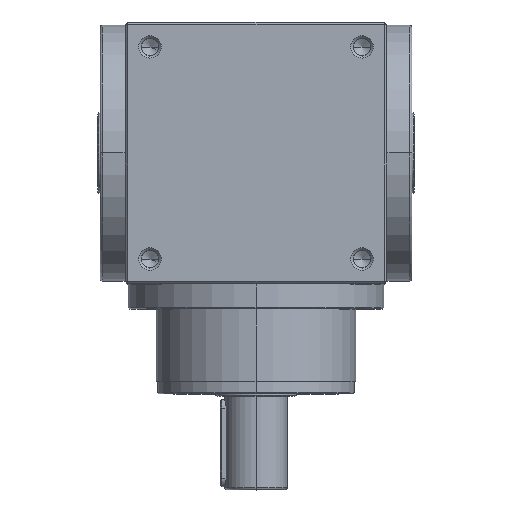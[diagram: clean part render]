
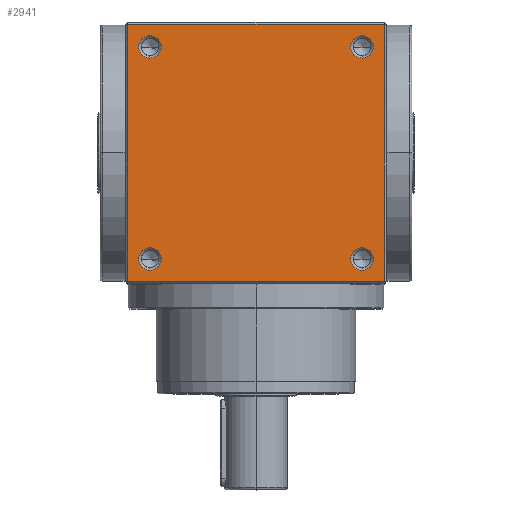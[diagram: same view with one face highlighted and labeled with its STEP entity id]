
A CAD part, top view. The second image highlights one B-rep face of the part: STEP entity #2941.
In plain terms, the highlighted planar face has unit normal (0, 0, 1).
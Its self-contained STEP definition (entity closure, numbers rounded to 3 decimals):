
#244 = EDGE_CURVE ( 'NONE', #2191, #11335, #12381, .T. ) ;
#249 = CARTESIAN_POINT ( 'NONE',  ( 103., -103., 105. ) ) ;
#279 = ORIENTED_EDGE ( 'NONE', *, *, #3799, .F. ) ;
#300 = EDGE_LOOP ( 'NONE', ( #6648, #6081 ) ) ;
#321 = VERTEX_POINT ( 'NONE', #3622 ) ;
#336 = ORIENTED_EDGE ( 'NONE', *, *, #1394, .F. ) ;
#395 = VERTEX_POINT ( 'NONE', #10853 ) ;
#608 = DIRECTION ( 'NONE',  ( 0., 0., 1. ) ) ;
#756 = CIRCLE ( 'NONE', #11663, 9. ) ;
#773 = CARTESIAN_POINT ( 'NONE',  ( -103., 103., 105. ) ) ;
#934 = LINE ( 'NONE', #5462, #3577 ) ;
#968 = CARTESIAN_POINT ( 'NONE',  ( -85., -76., 105. ) ) ;
#1059 = LINE ( 'NONE', #11215, #6003 ) ;
#1388 = CIRCLE ( 'NONE', #3083, 9. ) ;
#1394 = EDGE_CURVE ( 'NONE', #10321, #9308, #6540, .T. ) ;
#1563 = CARTESIAN_POINT ( 'NONE',  ( 0., 0., 105. ) ) ;
#1846 = VERTEX_POINT ( 'NONE', #6863 ) ;
#1880 = AXIS2_PLACEMENT_3D ( 'NONE', #1563, #8465, #2586 ) ;
#1972 = CARTESIAN_POINT ( 'NONE',  ( 85., -85., 105. ) ) ;
#2123 = EDGE_CURVE ( 'NONE', #8419, #3118, #756, .T. ) ;
#2191 = VERTEX_POINT ( 'NONE', #9527 ) ;
#2344 = FACE_BOUND ( 'NONE', #7661, .T. ) ;
#2389 = EDGE_LOOP ( 'NONE', ( #4267, #2918, #336, #4982 ) ) ;
#2458 = CIRCLE ( 'NONE', #5632, 9. ) ;
#2526 = CARTESIAN_POINT ( 'NONE',  ( 85., 85., 105. ) ) ;
#2586 = DIRECTION ( 'NONE',  ( -1., 0., 0. ) ) ;
#2866 = ORIENTED_EDGE ( 'NONE', *, *, #6354, .F. ) ;
#2918 = ORIENTED_EDGE ( 'NONE', *, *, #5237, .T. ) ;
#2939 = CARTESIAN_POINT ( 'NONE',  ( 85., -94., 105. ) ) ;
#2941 = ADVANCED_FACE ( 'NONE', ( #2344, #7596, #10187, #12489, #9889 ), #6413, .F. ) ;
#3001 = DIRECTION ( 'NONE',  ( 0., -1., 0. ) ) ;
#3083 = AXIS2_PLACEMENT_3D ( 'NONE', #10438, #4568, #11430 ) ;
#3118 = VERTEX_POINT ( 'NONE', #6061 ) ;
#3292 = LINE ( 'NONE', #11851, #5922 ) ;
#3361 = CIRCLE ( 'NONE', #12350, 9. ) ;
#3424 = DIRECTION ( 'NONE',  ( 0., -1., 0. ) ) ;
#3516 = DIRECTION ( 'NONE',  ( 0., -1., 0. ) ) ;
#3577 = VECTOR ( 'NONE', #3424, 1000. ) ;
#3622 = CARTESIAN_POINT ( 'NONE',  ( 85., 76., 105. ) ) ;
#3799 = EDGE_CURVE ( 'NONE', #7589, #1846, #1388, .T. ) ;
#4075 = CARTESIAN_POINT ( 'NONE',  ( -103., 0., 105. ) ) ;
#4267 = ORIENTED_EDGE ( 'NONE', *, *, #12525, .F. ) ;
#4568 = DIRECTION ( 'NONE',  ( 0., 0., 1. ) ) ;
#4752 = CARTESIAN_POINT ( 'NONE',  ( 103., 103., 105. ) ) ;
#4850 = CARTESIAN_POINT ( 'NONE',  ( -85., 94., 105. ) ) ;
#4907 = CARTESIAN_POINT ( 'NONE',  ( -85., 85., 105. ) ) ;
#4982 = ORIENTED_EDGE ( 'NONE', *, *, #8478, .F. ) ;
#5034 = CARTESIAN_POINT ( 'NONE',  ( 85., 85., 105. ) ) ;
#5237 = EDGE_CURVE ( 'NONE', #7510, #9308, #1059, .T. ) ;
#5462 = CARTESIAN_POINT ( 'NONE',  ( 103., 0., 105. ) ) ;
#5632 = AXIS2_PLACEMENT_3D ( 'NONE', #4907, #11735, #5873 ) ;
#5801 = EDGE_LOOP ( 'NONE', ( #10900, #12357 ) ) ;
#5850 = DIRECTION ( 'NONE',  ( 0., 0., 1. ) ) ;
#5873 = DIRECTION ( 'NONE',  ( 0., -1., 0. ) ) ;
#5922 = VECTOR ( 'NONE', #6958, 1000. ) ;
#5986 = DIRECTION ( 'NONE',  ( 0., -1., 0. ) ) ;
#6003 = VECTOR ( 'NONE', #12174, 1000. ) ;
#6061 = CARTESIAN_POINT ( 'NONE',  ( -85., -94., 105. ) ) ;
#6081 = ORIENTED_EDGE ( 'NONE', *, *, #7015, .F. ) ;
#6193 = AXIS2_PLACEMENT_3D ( 'NONE', #1972, #8897, #3001 ) ;
#6227 = VECTOR ( 'NONE', #8977, 1000. ) ;
#6354 = EDGE_CURVE ( 'NONE', #1846, #7589, #9264, .T. ) ;
#6413 = PLANE ( 'NONE',  #1880 ) ;
#6521 = CARTESIAN_POINT ( 'NONE',  ( -85., -85., 105. ) ) ;
#6540 = LINE ( 'NONE', #4075, #6227 ) ;
#6648 = ORIENTED_EDGE ( 'NONE', *, *, #244, .F. ) ;
#6765 = ORIENTED_EDGE ( 'NONE', *, *, #7611, .F. ) ;
#6795 = DIRECTION ( 'NONE',  ( 0., -1., 0. ) ) ;
#6863 = CARTESIAN_POINT ( 'NONE',  ( 85., -76., 105. ) ) ;
#6958 = DIRECTION ( 'NONE',  ( -1., 0., 0. ) ) ;
#7015 = EDGE_CURVE ( 'NONE', #11335, #2191, #2458, .T. ) ;
#7224 = ORIENTED_EDGE ( 'NONE', *, *, #10689, .F. ) ;
#7506 = DIRECTION ( 'NONE',  ( 0., -1., 0. ) ) ;
#7510 = VERTEX_POINT ( 'NONE', #4752 ) ;
#7589 = VERTEX_POINT ( 'NONE', #2939 ) ;
#7596 = FACE_BOUND ( 'NONE', #5801, .T. ) ;
#7611 = EDGE_CURVE ( 'NONE', #395, #321, #10101, .T. ) ;
#7661 = EDGE_LOOP ( 'NONE', ( #279, #2866 ) ) ;
#7787 = DIRECTION ( 'NONE',  ( 0., 0., 1. ) ) ;
#7827 = CARTESIAN_POINT ( 'NONE',  ( -85., 85., 105. ) ) ;
#8419 = VERTEX_POINT ( 'NONE', #968 ) ;
#8465 = DIRECTION ( 'NONE',  ( 0., 0., -1. ) ) ;
#8478 = EDGE_CURVE ( 'NONE', #10424, #10321, #3292, .T. ) ;
#8897 = DIRECTION ( 'NONE',  ( 0., 0., 1. ) ) ;
#8977 = DIRECTION ( 'NONE',  ( 0., 1., 0. ) ) ;
#9023 = AXIS2_PLACEMENT_3D ( 'NONE', #5034, #11852, #5986 ) ;
#9264 = CIRCLE ( 'NONE', #6193, 9. ) ;
#9308 = VERTEX_POINT ( 'NONE', #773 ) ;
#9396 = DIRECTION ( 'NONE',  ( 0., 0., 1. ) ) ;
#9527 = CARTESIAN_POINT ( 'NONE',  ( -85., 76., 105. ) ) ;
#9889 = FACE_OUTER_BOUND ( 'NONE', #2389, .T. ) ;
#10101 = CIRCLE ( 'NONE', #9023, 9. ) ;
#10187 = FACE_BOUND ( 'NONE', #11348, .T. ) ;
#10214 = EDGE_CURVE ( 'NONE', #3118, #8419, #10943, .T. ) ;
#10321 = VERTEX_POINT ( 'NONE', #11882 ) ;
#10424 = VERTEX_POINT ( 'NONE', #249 ) ;
#10438 = CARTESIAN_POINT ( 'NONE',  ( 85., -85., 105. ) ) ;
#10689 = EDGE_CURVE ( 'NONE', #321, #395, #3361, .T. ) ;
#10853 = CARTESIAN_POINT ( 'NONE',  ( 85., 94., 105. ) ) ;
#10900 = ORIENTED_EDGE ( 'NONE', *, *, #10214, .F. ) ;
#10943 = CIRCLE ( 'NONE', #12003, 9. ) ;
#11215 = CARTESIAN_POINT ( 'NONE',  ( 0., 103., 105. ) ) ;
#11335 = VERTEX_POINT ( 'NONE', #4850 ) ;
#11348 = EDGE_LOOP ( 'NONE', ( #7224, #6765 ) ) ;
#11430 = DIRECTION ( 'NONE',  ( 0., -1., 0. ) ) ;
#11663 = AXIS2_PLACEMENT_3D ( 'NONE', #6521, #608, #7506 ) ;
#11698 = AXIS2_PLACEMENT_3D ( 'NONE', #7827, #7787, #6795 ) ;
#11713 = CARTESIAN_POINT ( 'NONE',  ( -85., -85., 105. ) ) ;
#11735 = DIRECTION ( 'NONE',  ( 0., 0., 1. ) ) ;
#11851 = CARTESIAN_POINT ( 'NONE',  ( 0., -103., 105. ) ) ;
#11852 = DIRECTION ( 'NONE',  ( 0., 0., 1. ) ) ;
#11882 = CARTESIAN_POINT ( 'NONE',  ( -103., -103., 105. ) ) ;
#12003 = AXIS2_PLACEMENT_3D ( 'NONE', #11713, #5850, #12703 ) ;
#12174 = DIRECTION ( 'NONE',  ( -1., 0., 0. ) ) ;
#12350 = AXIS2_PLACEMENT_3D ( 'NONE', #2526, #9396, #3516 ) ;
#12357 = ORIENTED_EDGE ( 'NONE', *, *, #2123, .F. ) ;
#12381 = CIRCLE ( 'NONE', #11698, 9. ) ;
#12489 = FACE_BOUND ( 'NONE', #300, .T. ) ;
#12525 = EDGE_CURVE ( 'NONE', #7510, #10424, #934, .T. ) ;
#12703 = DIRECTION ( 'NONE',  ( 0., -1., 0. ) ) ;
